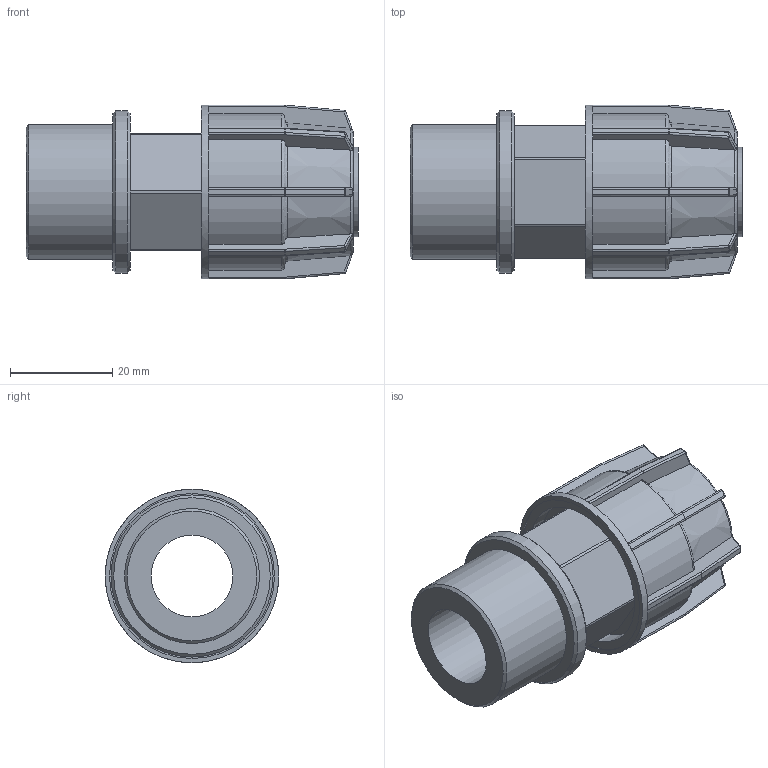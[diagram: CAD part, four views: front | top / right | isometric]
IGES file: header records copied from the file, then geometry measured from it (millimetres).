
Global section: file name: 040207016007.ipt; native system: Autodesk Inventor 2015; preprocessor: unknown; author: KIM; date: 20180409.130623; units: millimetre
Bounding box: 65 x 34 x 34 mm (x, y, z)
Volume: 24963.7 mm3; surface area: 12441.2 mm2
Topology: 1 solids, 1 shells, 281 faces, 675 edges, 393 vertices
Faces by surface type: plane 141, cylinder 76, sphere 32, revolution 21, cone 11
Full cylindrical faces by diameter (mm): 17.6 x1, 26.441 x1, 31.729 x1, 34 x1
